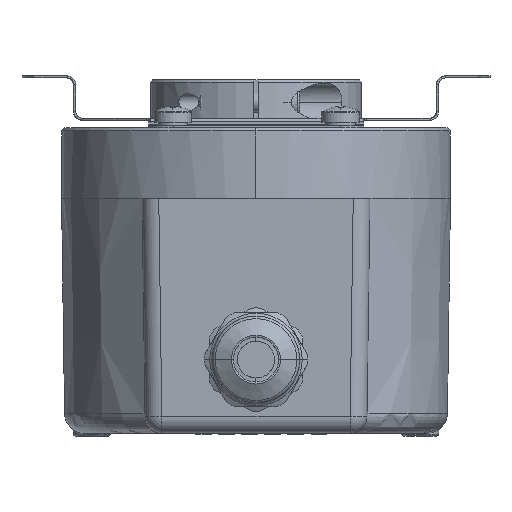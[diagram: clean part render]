
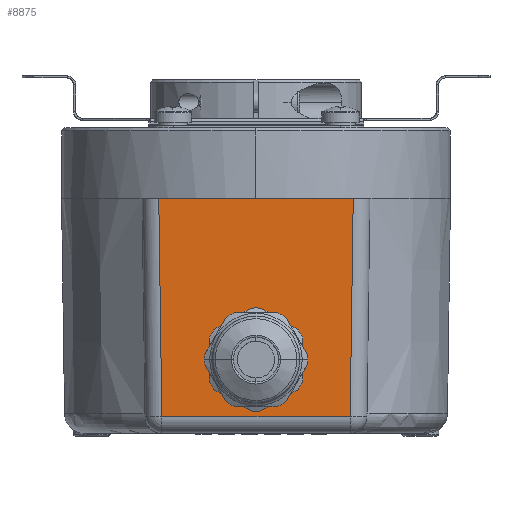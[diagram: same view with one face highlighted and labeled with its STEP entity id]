
A CAD part, front view. The second image highlights one B-rep face of the part: STEP entity #8875.
In plain terms, the highlighted planar face has unit normal (0, -1, -0.014).
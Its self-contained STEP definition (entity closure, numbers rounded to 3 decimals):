
#885 = CARTESIAN_POINT ( 'NONE',  ( 17., -28.546, -25.535 ) ) ;
#1242 = DIRECTION ( 'NONE',  ( 1., 0., 0. ) ) ;
#1492 = DIRECTION ( 'NONE',  ( 0.014, -0.014, 1. ) ) ;
#1704 = PLANE ( 'NONE',  #3729 ) ;
#1952 =( BOUNDED_CURVE ( )  B_SPLINE_CURVE ( 3, ( #14070, #5727, #10810, #3610 ),
 .UNSPECIFIED., .F., .T. ) 
 B_SPLINE_CURVE_WITH_KNOTS ( ( 4, 4 ),
 ( 0., 3.142 ),
 .UNSPECIFIED. ) 
 CURVE ( )  GEOMETRIC_REPRESENTATION_ITEM ( )  RATIONAL_B_SPLINE_CURVE ( ( 1., 0.333, 0.333, 1. ) ) 
 REPRESENTATION_ITEM ( '' )  );
#2678 = DIRECTION ( 'NONE',  ( 1., 0., 0. ) ) ;
#3079 = LINE ( 'NONE', #18936, #6949 ) ;
#3198 = CARTESIAN_POINT ( 'NONE',  ( 14.501, -29., 7.035 ) ) ;
#3304 = CARTESIAN_POINT ( 'NONE',  ( 17., -29., 7. ) ) ;
#3457 = EDGE_CURVE ( 'NONE', #21806, #9662, #1952, .T. ) ;
#3610 = CARTESIAN_POINT ( 'NONE',  ( 0., -28.745, -11.25 ) ) ;
#3729 = AXIS2_PLACEMENT_3D ( 'NONE', #13400, #18493, #6871 ) ;
#4597 = CARTESIAN_POINT ( 'NONE',  ( 0., -28.585, -22.75 ) ) ;
#4961 = CARTESIAN_POINT ( 'NONE',  ( -14.5, -29., 7. ) ) ;
#5727 = CARTESIAN_POINT ( 'NONE',  ( 11.5, -28.585, -22.75 ) ) ;
#5829 = CARTESIAN_POINT ( 'NONE',  ( 14.5, -29., 7. ) ) ;
#6498 = ORIENTED_EDGE ( 'NONE', *, *, #11827, .T. ) ;
#6719 = VECTOR ( 'NONE', #2678, 1000. ) ;
#6871 = DIRECTION ( 'NONE',  ( 0., -0.014, 1. ) ) ;
#6895 = DIRECTION ( 'NONE',  ( 1., 0., 0. ) ) ;
#6949 = VECTOR ( 'NONE', #17348, 1000. ) ;
#7247 = VERTEX_POINT ( 'NONE', #4961 ) ;
#7754 = LINE ( 'NONE', #885, #6719 ) ;
#8246 = FACE_BOUND ( 'NONE', #19397, .T. ) ;
#8361 = EDGE_CURVE ( 'NONE', #18915, #11649, #16935, .T. ) ;
#8610 = CARTESIAN_POINT ( 'NONE',  ( 0., -28.745, -11.25 ) ) ;
#8875 = ADVANCED_FACE ( 'NONE', ( #15336, #8246 ), #1704, .T. ) ;
#9662 = VERTEX_POINT ( 'NONE', #8610 ) ;
#10247 = EDGE_CURVE ( 'NONE', #7247, #18915, #16669, .T. ) ;
#10704 = CARTESIAN_POINT ( 'NONE',  ( -11.5, -28.745, -11.25 ) ) ;
#10810 = CARTESIAN_POINT ( 'NONE',  ( 11.5, -28.745, -11.25 ) ) ;
#11649 = VERTEX_POINT ( 'NONE', #5829 ) ;
#11707 = EDGE_CURVE ( 'NONE', #9662, #21806, #18350, .T. ) ;
#11827 = EDGE_CURVE ( 'NONE', #19117, #14407, #7754, .T. ) ;
#12263 = CARTESIAN_POINT ( 'NONE',  ( 0., -28.585, -22.75 ) ) ;
#13107 = ORIENTED_EDGE ( 'NONE', *, *, #16033, .T. ) ;
#13400 = CARTESIAN_POINT ( 'NONE',  ( 17., -29., 7. ) ) ;
#14070 = CARTESIAN_POINT ( 'NONE',  ( 0., -28.585, -22.75 ) ) ;
#14193 = VECTOR ( 'NONE', #1492, 1000. ) ;
#14399 = CARTESIAN_POINT ( 'NONE',  ( -11.5, -28.585, -22.75 ) ) ;
#14407 = VERTEX_POINT ( 'NONE', #16221 ) ;
#15336 = FACE_OUTER_BOUND ( 'NONE', #21139, .T. ) ;
#15554 = ORIENTED_EDGE ( 'NONE', *, *, #17166, .T. ) ;
#16033 = EDGE_CURVE ( 'NONE', #7247, #19117, #3079, .T. ) ;
#16221 = CARTESIAN_POINT ( 'NONE',  ( 14.046, -28.546, -25.535 ) ) ;
#16287 = VECTOR ( 'NONE', #6895, 1000. ) ;
#16669 = LINE ( 'NONE', #19744, #20358 ) ;
#16935 = LINE ( 'NONE', #3304, #16287 ) ;
#17166 = EDGE_CURVE ( 'NONE', #14407, #11649, #22223, .T. ) ;
#17348 = DIRECTION ( 'NONE',  ( 0.014, 0.014, -1. ) ) ;
#18131 = ORIENTED_EDGE ( 'NONE', *, *, #3457, .F. ) ;
#18350 =( BOUNDED_CURVE ( )  B_SPLINE_CURVE ( 3, ( #19381, #10704, #14399, #12263 ),
 .UNSPECIFIED., .F., .T. ) 
 B_SPLINE_CURVE_WITH_KNOTS ( ( 4, 4 ),
 ( 3.142, 6.283 ),
 .UNSPECIFIED. ) 
 CURVE ( )  GEOMETRIC_REPRESENTATION_ITEM ( )  RATIONAL_B_SPLINE_CURVE ( ( 1., 0.333, 0.333, 1. ) ) 
 REPRESENTATION_ITEM ( '' )  );
#18358 = CARTESIAN_POINT ( 'NONE',  ( -14.046, -28.546, -25.535 ) ) ;
#18493 = DIRECTION ( 'NONE',  ( 0., -1., -0.014 ) ) ;
#18915 = VERTEX_POINT ( 'NONE', #19498 ) ;
#18936 = CARTESIAN_POINT ( 'NONE',  ( -14.494, -28.994, 6.56 ) ) ;
#19117 = VERTEX_POINT ( 'NONE', #18358 ) ;
#19222 = ORIENTED_EDGE ( 'NONE', *, *, #11707, .F. ) ;
#19381 = CARTESIAN_POINT ( 'NONE',  ( 0., -28.745, -11.25 ) ) ;
#19397 = EDGE_LOOP ( 'NONE', ( #18131, #19222 ) ) ;
#19498 = CARTESIAN_POINT ( 'NONE',  ( 0., -29., 7. ) ) ;
#19744 = CARTESIAN_POINT ( 'NONE',  ( 17., -29., 7. ) ) ;
#20358 = VECTOR ( 'NONE', #1242, 1000. ) ;
#20397 = ORIENTED_EDGE ( 'NONE', *, *, #10247, .F. ) ;
#21139 = EDGE_LOOP ( 'NONE', ( #20397, #13107, #6498, #15554, #21939 ) ) ;
#21806 = VERTEX_POINT ( 'NONE', #4597 ) ;
#21939 = ORIENTED_EDGE ( 'NONE', *, *, #8361, .F. ) ;
#22223 = LINE ( 'NONE', #3198, #14193 ) ;
